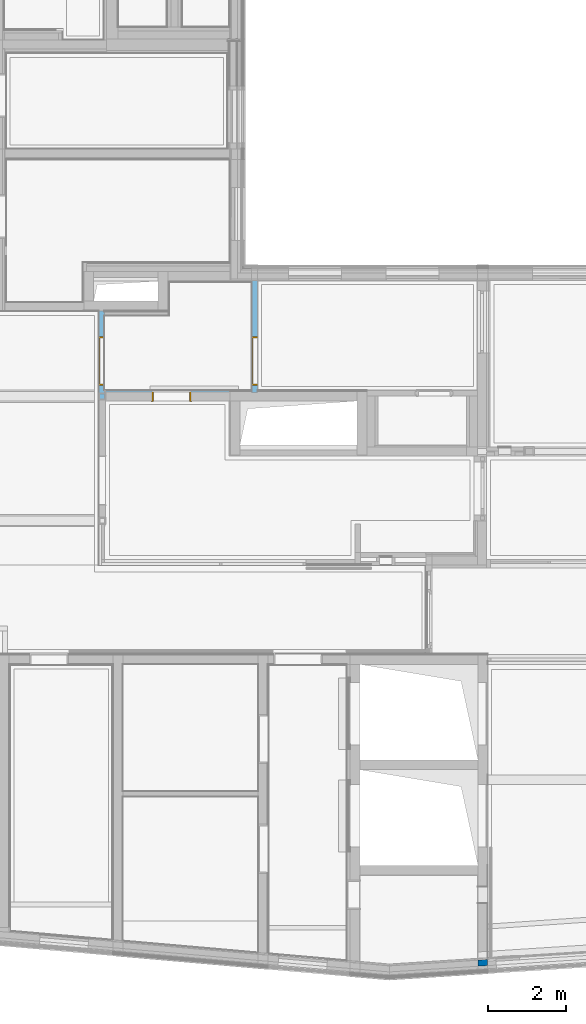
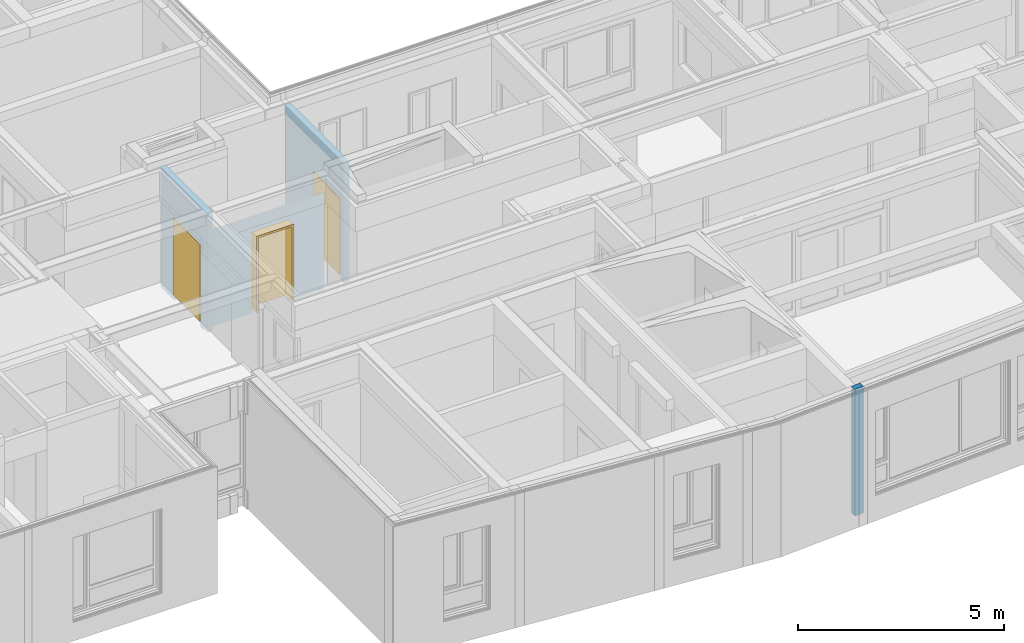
# One storey, part 83 of 222: 3 doors, 1 wall, 3 openings, plus 3 elements that do not belong to this part.
"""IFC4 building model written with IfcOpenShell, lengths in metres."""

import ifcopenshell
import ifcopenshell.guid

model = None  # the IFC model being written
_history = None  # IfcOwnerHistory: only IFC2X3 demands one
_inside = {}  # id of a spatial element -> (the spatial element, [elements in it])
_under = {}  # id of a project, library or spatial element -> (it, [spatial elements below it])
_declared = {}  # id of a project -> (the project, [libraries it declares])
_typed = {}  # id of a type object -> (the type object, [elements of that type])
_made_of = {}  # id of a material, layer set ... -> (it, [elements and type objects made of it])


def new_model(schema):
    """Start an empty IFC model of exactly this schema.

    Asked for "IFC4X3", IfcOpenShell would pick the latest addendum, in which some entities
    have other attributes; the version numbers below select the first issue.
    IFC2X3 requires an IfcOwnerHistory on every rooted entity: one is made here for all.
    """
    global model, _history
    if schema == "IFC4X3":
        model = ifcopenshell.file(schema_version=(4, 3, 0, 0))
    else:
        model = ifcopenshell.file(schema=schema)
    _inside.clear()
    _under.clear()
    _declared.clear()
    _typed.clear()
    _made_of.clear()
    _history = None
    if model.schema == "IFC2X3":
        org = make("IfcOrganization", Name="unknown")
        user = make(
            "IfcPersonAndOrganization",
            ThePerson=make("IfcPerson", FamilyName="unknown"),
            TheOrganization=org,
        )
        app = make(
            "IfcApplication",
            ApplicationDeveloper=org,
            Version="unknown",
            ApplicationFullName="unknown",
            ApplicationIdentifier="unknown",
        )
        _history = make(
            "IfcOwnerHistory",
            OwningUser=user,
            OwningApplication=app,
            ChangeAction="ADDED",
            CreationDate=0,
        )
    return model


def make(cls, **values):
    """One entity of the class cls with the attributes given. An attribute that is None is left unset."""
    return model.create_entity(
        cls, **{name: value for name, value in values.items() if value is not None}
    )


def entity(cls, *values):
    """Any entity or typed value of the class cls, its attributes in the order of the schema. None: left unset."""
    e = model.create_entity(cls)
    for i, value in enumerate(values):
        if value is not None:
            e[i] = value
    return e


def rooted(cls, **values):
    """An entity with a GlobalId (a new one), such as an element, a storey or a relation."""
    return make(cls, GlobalId=ifcopenshell.guid.new(), OwnerHistory=_history, **values)


def si_unit(unit_type, name, prefix=None):
    """IfcSIUnit, for example si_unit("LENGTHUNIT", "METRE", prefix="MILLI")."""
    return make("IfcSIUnit", UnitType=unit_type, Prefix=prefix, Name=name)


def converted_unit(unit_type, name, factor, base, dimensions=None, offset=None):
    """IfcConversionBasedUnit, such as the inch: factor (a typed value) times the base unit."""
    return make(
        "IfcConversionBasedUnit"
        if offset is None
        else "IfcConversionBasedUnitWithOffset",
        ConversionOffset=offset,
        Dimensions=None
        if dimensions is None
        else entity("IfcDimensionalExponents", *dimensions),
        UnitType=unit_type,
        Name=name,
        ConversionFactor=make(
            "IfcMeasureWithUnit", ValueComponent=factor, UnitComponent=base
        ),
    )


def derived_unit(unit_type, elements):
    """IfcDerivedUnit: a product of units, each with its exponent."""
    return make(
        "IfcDerivedUnit",
        Elements=[
            make("IfcDerivedUnitElement", Unit=unit, Exponent=power)
            for unit, power in elements
        ],
        UnitType=unit_type,
    )


def assignment(units):
    """IfcUnitAssignment: the units of a project."""
    return None if units is None else make("IfcUnitAssignment", Units=units)


def point(xyz):
    """IfcCartesianPoint."""
    return None if xyz is None else make("IfcCartesianPoint", Coordinates=xyz)


def direction(xyz):
    """IfcDirection."""
    return None if xyz is None else make("IfcDirection", DirectionRatios=xyz)


def frame(location, z_axis=None, x_axis=None):
    """IfcAxis2Placement3D, a coordinate frame: its origin and axes. An axis left out is left unset."""
    return make(
        "IfcAxis2Placement3D",
        Location=point(location),
        Axis=direction(z_axis),
        RefDirection=direction(x_axis),
    )


def frame_2d(location, x_axis=None):
    """IfcAxis2Placement2D, a coordinate frame in the plane: its origin and x axis."""
    return make(
        "IfcAxis2Placement2D", Location=point(location), RefDirection=direction(x_axis)
    )


def origin():
    """The frame at (0, 0, 0) with its axes left unset."""
    return frame((0.0, 0.0, 0.0))


def origin_with_axes():
    """The frame at (0, 0, 0) with the z axis (0, 0, 1) and the x axis (1, 0, 0) written out."""
    return frame((0.0, 0.0, 0.0), z_axis=(0.0, 0.0, 1.0), x_axis=(1.0, 0.0, 0.0))


def place(relative_to, where):
    """IfcLocalPlacement: puts the frame where relative to a parent placement (None: the world)."""
    return make(
        "IfcLocalPlacement", PlacementRelTo=relative_to, RelativePlacement=where
    )


def context(
    kind, dimensions, precision=None, world=None, true_north=None, identifier=None
):
    """IfcGeometricRepresentationContext, for example the 3D "Model" context."""
    return make(
        "IfcGeometricRepresentationContext",
        ContextIdentifier=identifier,
        ContextType=kind,
        CoordinateSpaceDimension=dimensions,
        Precision=precision,
        WorldCoordinateSystem=world,
        TrueNorth=true_north,
    )


def subcontext(parent, identifier, kind, view, scale=None):
    """IfcGeometricRepresentationSubContext, for example "Body" below "Model"."""
    return make(
        "IfcGeometricRepresentationSubContext",
        ContextIdentifier=identifier,
        ContextType=kind,
        ParentContext=parent,
        TargetScale=scale,
        TargetView=view,
    )


def project(units=None, contexts=None):
    """IfcProject with its units and contexts."""
    return rooted(
        "IfcProject",
        Name="project",
        RepresentationContexts=contexts,
        UnitsInContext=assignment(units),
    )


def spatial(cls, under=None, at=None, **own):
    """A site, building, storey or space (cls), placed at a placement, below another one or the project."""
    s = rooted(cls, ObjectPlacement=at, **own)
    if under is not None:
        _under.setdefault(under.id(), (under, []))[1].append(s)
    return s


def polyline(points):
    """IfcPolyline through the points."""
    return make("IfcPolyline", Points=[point(p) for p in points])


def profile(cls, at=None, kind="AREA", **sizes):
    """A parametric profile (cls). Its sizes go by their IFC names, for example OverallWidth=200.0."""
    return make(cls, ProfileType=kind, Position=at, **sizes)


def rectangle(**sizes):
    """IfcRectangleProfileDef."""
    return profile("IfcRectangleProfileDef", **sizes)


def outline(outer, holes=None, kind="AREA"):
    """IfcArbitraryClosedProfileDef: a profile drawn as a closed curve; with holes, ...WithVoids."""
    if holes is None:
        return make("IfcArbitraryClosedProfileDef", ProfileType=kind, OuterCurve=outer)
    return make(
        "IfcArbitraryProfileDefWithVoids",
        ProfileType=kind,
        OuterCurve=outer,
        InnerCurves=holes,
    )


def extrude(swept, where, along, depth):
    """IfcExtrudedAreaSolid: the profile swept, set in the frame where, extruded along a direction by depth."""
    return make(
        "IfcExtrudedAreaSolid",
        SweptArea=swept,
        Position=where,
        ExtrudedDirection=direction(along),
        Depth=depth,
    )


def clip(a, b, op="DIFFERENCE"):
    """IfcBooleanClippingResult: the solid a cut by the half space b."""
    return make(
        "IfcBooleanClippingResult", Operator=op, FirstOperand=a, SecondOperand=b
    )


def bounded_halfspace(plane, agree, where, boundary):
    """IfcPolygonalBoundedHalfSpace: a half space limited to a polygon's prism."""
    return make(
        "IfcPolygonalBoundedHalfSpace",
        BaseSurface=make("IfcPlane", Position=plane),
        AgreementFlag=agree,
        Position=where,
        PolygonalBoundary=boundary,
    )


def faces_of(points, faces, orient=None, outer=None):
    """IfcFace entities. A face is a list of loops; a loop is a list of indices into points, from 0.

    orient and outer hold one flag for each loop. By default every Orientation is true, the
    first loop of a face is its IfcFaceOuterBound and the others are IfcFaceBound.
    """
    made = []
    for i, loops in enumerate(faces):
        bounds = []
        for j, loop in enumerate(loops):
            is_outer = j == 0 if outer is None else outer[i][j]
            bounds.append(
                make(
                    "IfcFaceOuterBound" if is_outer else "IfcFaceBound",
                    Bound=make("IfcPolyLoop", Polygon=[points[k] for k in loop]),
                    Orientation=True if orient is None else orient[i][j],
                )
            )
        made.append(make("IfcFace", Bounds=bounds))
    return made


def faceted_brep(points, faces, orient=None, outer=None, voids=None):
    """IfcFacetedBrep: a solid bounded by flat faces; with voids (closed shells), ...WithVoids."""
    shared = [point(p) for p in points]
    hull = make("IfcClosedShell", CfsFaces=faces_of(shared, faces, orient, outer))
    if voids is None:
        return make("IfcFacetedBrep", Outer=hull)
    return make(
        "IfcFacetedBrepWithVoids",
        Outer=hull,
        Voids=[
            make(cls, CfsFaces=faces_of(shared, fs, o, b)) for cls, fs, o, b in voids
        ],
    )


def shape(context_of_items, identifier, shape_type, items):
    """IfcShapeRepresentation: the items that make up one representation, for example the "Body"."""
    return make(
        "IfcShapeRepresentation",
        ContextOfItems=context_of_items,
        RepresentationIdentifier=identifier,
        RepresentationType=shape_type,
        Items=items,
    )


def source(mapping_origin, context_of_items, identifier, shape_type, items):
    """IfcRepresentationMap: a shape defined once, which mapped items show again and again."""
    return make(
        "IfcRepresentationMap",
        MappingOrigin=mapping_origin,
        MappedRepresentation=shape(context_of_items, identifier, shape_type, items),
    )


def transform(
    local_origin,
    x_axis=None,
    y_axis=None,
    z_axis=None,
    scale=None,
    scale2=None,
    scale3=None,
    uniform=True,
):
    """IfcCartesianTransformationOperator3D, or its non-uniform kind. x_axis, y_axis, z_axis: its Axis1, 2, 3."""
    if uniform:
        return make(
            "IfcCartesianTransformationOperator3D",
            Axis1=direction(x_axis),
            Axis2=direction(y_axis),
            LocalOrigin=point(local_origin),
            Scale=scale,
            Axis3=direction(z_axis),
        )
    return make(
        "IfcCartesianTransformationOperator3DnonUniform",
        Axis1=direction(x_axis),
        Axis2=direction(y_axis),
        LocalOrigin=point(local_origin),
        Scale=scale,
        Axis3=direction(z_axis),
        Scale2=scale2,
        Scale3=scale3,
    )


def mapped(mapping_source, mapping_target):
    """IfcMappedItem: shows the shape of a source again, moved by a transform."""
    return make(
        "IfcMappedItem", MappingSource=mapping_source, MappingTarget=mapping_target
    )


def material(Name=None, Category=None):
    """IfcMaterial."""
    return make("IfcMaterial", Name=Name, Category=Category)


def made_of(thing, what):
    """Note that an element or type object is made of a material, layer set ...; save() writes the relation."""
    if what is not None:
        _made_of.setdefault(what.id(), (what, []))[1].append(thing)
    return thing


def type_object(cls, material=None, **own):
    """A type object (cls), such as IfcWallType, which elements share."""
    return made_of(rooted(cls, **own), material)


def element(
    cls,
    number,
    at=None,
    inside=None,
    cuts=None,
    type_object=None,
    material=None,
    context=None,
    identifier="Body",
    shape_type=None,
    held_by="IfcProductDefinitionShape",
    body=None,
    shapes=None,
    **own,
):
    """One element of the class cls, such as IfcWall. Its Tag is "e" and its number.

    at: its placement. inside: the storey or other place that contains it. cuts: it is an
    opening in that element (IfcRelVoidsElement). A single representation is given by context,
    identifier, shape_type and body (its items); several are given by shapes. held_by: the class
    of the entity that holds the representations. save() writes the other relations.
    """
    e = rooted(cls, Tag="e%d" % number, ObjectPlacement=at, **own)
    if body is not None:
        shapes = [shape(context, identifier, shape_type, body)]
    if shapes is not None:
        e.Representation = make(held_by, Representations=shapes)
    if inside is not None:
        _inside.setdefault(inside.id(), (inside, []))[1].append(e)
    if cuts is not None:
        rooted(
            "IfcRelVoidsElement", RelatingBuildingElement=cuts, RelatedOpeningElement=e
        )
    if type_object is not None:
        _typed.setdefault(type_object.id(), (type_object, []))[1].append(e)
    return made_of(e, material)


def fill(opening, filler):
    """IfcRelFillsElement: the door or window that sits in an opening."""
    return rooted(
        "IfcRelFillsElement",
        RelatingOpeningElement=opening,
        RelatedBuildingElement=filler,
    )


def aggregate(whole, parts):
    """IfcRelAggregates: a whole, such as a stair, and the parts it consists of."""
    return rooted("IfcRelAggregates", RelatingObject=whole, RelatedObjects=parts)


def save(model, path):
    """Write the relations noted so far, then the file.

    IfcRelAggregates (storeys below a building ...), IfcRelContainedInSpatialStructure (elements
    in a storey), IfcRelDefinesByType, IfcRelAssociatesMaterial and IfcRelDeclares: one each for
    every whole, place, type object, material and project.
    """
    for whole, parts in _under.values():
        aggregate(whole, parts)
    for where, things in _inside.values():
        rooted(
            "IfcRelContainedInSpatialStructure",
            RelatedElements=things,
            RelatingStructure=where,
        )
    for kind, things in _typed.values():
        rooted("IfcRelDefinesByType", RelatedObjects=things, RelatingType=kind)
    for what, things in _made_of.values():
        rooted("IfcRelAssociatesMaterial", RelatedObjects=things, RelatingMaterial=what)
    for by, libraries in _declared.values():
        rooted("IfcRelDeclares", RelatingContext=by, RelatedDefinitions=libraries)
    model.write(path)


model = new_model("IFC4")

# Units and contexts
model_context = context("Model", 3, precision=1e-05, world=origin())
body_context = subcontext(model_context, "Body", "Model", "MODEL_VIEW")
ifc_project = project(units=[si_unit("LENGTHUNIT", "METRE"), si_unit("AREAUNIT", "SQUARE_METRE"), si_unit("VOLUMEUNIT", "CUBIC_METRE"), si_unit("MASSUNIT", "GRAM", prefix="KILO"), converted_unit("PLANEANGLEUNIT", "DEGREE", entity("IfcPlaneAngleMeasure", 0.0174532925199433), si_unit("PLANEANGLEUNIT", "RADIAN"), dimensions=[0, 0, 0, 0, 0, 0, 0]), derived_unit("THERMALTRANSMITTANCEUNIT", [(si_unit("POWERUNIT", "WATT"), 1), (si_unit("THERMODYNAMICTEMPERATUREUNIT", "KELVIN"), -1), (si_unit("LENGTHUNIT", "METRE"), -2)]), derived_unit("VOLUMETRICFLOWRATEUNIT", [(si_unit("LENGTHUNIT", "METRE"), 3), (converted_unit("TIMEUNIT", "hour", entity("IfcTimeMeasure", 3600.0), si_unit("TIMEUNIT", "SECOND"), dimensions=[0, 0, 1, 0, 0, 0, 0]), -1), (si_unit("LENGTHUNIT", "METRE"), -1)])], contexts=[model_context])

# Site, building, storey
site_placement = place(None, origin())
site = spatial("IfcSite", under=ifc_project, at=site_placement, Name="Psychiatrie Neubau Wunstorf", CompositionType="ELEMENT")
building_placement = place(site_placement, origin())
building = spatial("IfcBuilding", under=site, at=building_placement, Name="Neubau H2 Stationsgebäude", CompositionType="ELEMENT")
storey_placement = place(building_placement, frame((0.0, 0.0, 3.6)))
storey = spatial("IfcBuildingStorey", under=building, at=storey_placement, Name="H2 Ebene +1", CompositionType="ELEMENT", Elevation=3.6)

# Wall
ifc_material_1 = material(Name="WA-HD")
wall_1_placement = place(storey_placement, frame((50.3000000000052, -7.46352629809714, 0.0)))
element("IfcWall", 1, at=wall_1_placement, inside=storey, material=ifc_material_1, Name="Holzständer + Zwischendämmung", context=body_context, shape_type="Brep", body=[
    faceted_brep([(0.0138183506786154, 0.116124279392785, 3.55), (0.0138183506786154, 0.116124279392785, 3.25), (0.25, 0.13129149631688, 3.25), (0.25, 0.13129149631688, 3.55), (0.25, 0.176384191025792, 3.55), (0.010934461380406, 0.161031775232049, 3.55), (0.010934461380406, 0.161031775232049, 3.25), (0.25, 0.176384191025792, 3.25), (0.25, 0.0160546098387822, 0.0), (0.0, 0.0, 0.0), (0.0, 0.0, 3.75), (0.25, 0.0160546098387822, 3.75), (0.0, 0.16032958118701, 0.0), (0.0, 0.16032958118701, 3.75), (0.25, 0.176384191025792, 3.75), (0.25, 0.176384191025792, 0.0)], [[[0, 1, 2, 3]], [[0, 3, 4, 5]], [[5, 6, 1, 0]], [[6, 7, 2, 1]], [[8, 9, 10, 11]], [[9, 12, 13, 10]], [[4, 14, 13, 12, 15, 7, 6, 5]], [[3, 2, 7, 15, 8, 11, 14, 4]], [[14, 11, 10, 13]], [[8, 15, 12, 9]]], orient=[[False], [False], [False], [False], [False], [False], [False], [False], [False], [False]]),
])

# Wall, opening, door
ifc_material_2 = material(Name="WI-LB")
wall_2_placement = place(storey_placement, frame((43.9500000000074, 7.29999969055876, 0.0), z_axis=(0.0, 0.0, 1.0), x_axis=(-1.0, 0.0, 0.0)))
wall_2 = element("IfcWall", 2, at=wall_2_placement, inside=storey, material=ifc_material_2, context=body_context, shape_type="SweptSolid", body=[
    extrude(rectangle(XDim=3.19500244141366, YDim=0.04, at=frame_2d((1.59750122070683, 0.02), x_axis=(1.0, 0.0))), origin_with_axes(), (0.0, 0.0, 1.0), 2.85),
])
opening_1_placement = place(wall_2_placement, frame((0.999999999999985, 0.0, 0.0), z_axis=(0.0, 1.0, 0.0), x_axis=(0.0, 0.0, 1.0)))
opening_1 = element("IfcOpeningElement", 3, at=opening_1_placement, cuts=wall_2, Name="Türöffnung", ObjectType="Opening", context=body_context, shape_type="SweptSolid", body=[
    extrude(outline(polyline([(2.41, 1.01), (2.41, 0.0), (0.0, 0.0), (0.0, 1.01), (2.41, 1.01)])), origin_with_axes(), (0.0, 0.0, 1.0), 0.04),
])
ifc_material_3 = material(Name="TI-1F-UZ-ZK")
door_type_1 = type_object("IfcDoorType", Name="SMT", OperationType="SLIDING_TO_RIGHT", ParameterTakesPrecedence=False, PredefinedType="DOOR")
shared_shape_1 = source(origin_with_axes(), body_context, "Body", "Brep", [
    faceted_brep([(1.01, -0.015, 2.41), (1.01, -0.015, 0.15), (0.97, -0.015, 0.15), (0.97, -0.015, 2.41), (1.01, 0.287, 0.15), (1.01, 0.287, 2.41), (0.97, 0.287, 2.41), (0.97, 0.287, 0.15)], [[[0, 1, 2, 3]], [[4, 5, 6, 7]], [[1, 0, 5, 4]], [[2, 1, 4, 7]], [[3, 2, 7, 6]], [[0, 3, 6, 5]]], orient=[[False], [False], [False], [False], [False], [False]]),
    faceted_brep([(1.01, -0.015, 2.425), (1.025, -0.015, 2.425), (1.025, -0.015, 0.15), (1.01, -0.015, 0.15), (1.01, 0.0, 0.15), (1.025, 0.0, 0.15), (1.025, 0.0, 2.425), (1.01, 0.0, 2.425)], [[[0, 1, 2, 3]], [[4, 5, 6, 7]], [[3, 4, 7, 0]], [[2, 5, 4, 3]], [[1, 6, 5, 2]], [[0, 7, 6, 1]]], orient=[[False], [False], [False], [False], [False], [False]]),
    faceted_brep([(1.01, 0.272, 2.425), (1.025, 0.272, 2.425), (1.025, 0.272, 0.15), (1.01, 0.272, 0.15), (1.01, 0.287, 0.15), (1.025, 0.287, 0.15), (1.025, 0.287, 2.425), (1.01, 0.287, 2.425)], [[[0, 1, 2, 3]], [[4, 5, 6, 7]], [[3, 4, 7, 0]], [[2, 5, 4, 3]], [[1, 6, 5, 2]], [[0, 7, 6, 1]]], orient=[[False], [False], [False], [False], [False], [False]]),
    faceted_brep([(0.04, -0.015, 2.41), (0.04, -0.015, 0.15), (0.0, -0.015, 0.15), (0.0, -0.015, 2.41), (0.04, 0.287, 0.15), (0.04, 0.287, 2.41), (0.0, 0.287, 2.41), (0.0, 0.287, 0.15)], [[[0, 1, 2, 3]], [[4, 5, 6, 7]], [[1, 0, 5, 4]], [[2, 1, 4, 7]], [[3, 2, 7, 6]], [[0, 3, 6, 5]]], orient=[[False], [False], [False], [False], [False], [False]]),
    faceted_brep([(0.0, -0.015, 2.425), (0.0, -0.015, 0.15), (-0.015, -0.015, 0.15), (-0.015, -0.015, 2.425), (0.0, 0.0, 0.15), (0.0, 0.0, 2.425), (-0.015, 0.0, 2.425), (-0.015, 0.0, 0.15)], [[[0, 1, 2, 3]], [[4, 5, 6, 7]], [[1, 0, 5, 4]], [[2, 1, 4, 7]], [[3, 2, 7, 6]], [[0, 3, 6, 5]]], orient=[[False], [False], [False], [False], [False], [False]]),
    faceted_brep([(0.0, 0.272, 2.425), (0.0, 0.272, 0.15), (-0.015, 0.272, 0.15), (-0.015, 0.272, 2.425), (0.0, 0.287, 0.15), (0.0, 0.287, 2.425), (-0.015, 0.287, 2.425), (-0.015, 0.287, 0.15)], [[[0, 1, 2, 3]], [[4, 5, 6, 7]], [[1, 0, 5, 4]], [[2, 1, 4, 7]], [[3, 2, 7, 6]], [[0, 3, 6, 5]]], orient=[[False], [False], [False], [False], [False], [False]]),
    faceted_brep([(0.97, -0.015, 2.41), (0.97, -0.015, 2.37), (0.04, -0.015, 2.37), (0.04, -0.015, 2.41), (0.97, 0.287, 2.37), (0.97, 0.287, 2.41), (0.04, 0.287, 2.41), (0.04, 0.287, 2.37)], [[[0, 1, 2, 3]], [[4, 5, 6, 7]], [[1, 0, 5, 4]], [[2, 1, 4, 7]], [[3, 2, 7, 6]], [[0, 3, 6, 5]]], orient=[[False], [False], [False], [False], [False], [False]]),
    faceted_brep([(1.01, -0.015, 2.425), (1.01, -0.015, 2.41), (0.0, -0.015, 2.41), (0.0, -0.015, 2.425), (1.01, 0.0, 2.41), (1.01, 0.0, 2.425), (0.0, 0.0, 2.425), (0.0, 0.0, 2.41)], [[[0, 1, 2, 3]], [[4, 5, 6, 7]], [[1, 0, 5, 4]], [[2, 1, 4, 7]], [[3, 2, 7, 6]], [[0, 3, 6, 5]]], orient=[[False], [False], [False], [False], [False], [False]]),
    faceted_brep([(1.01, 0.272, 2.425), (1.01, 0.272, 2.41), (0.0, 0.272, 2.41), (0.0, 0.272, 2.425), (1.01, 0.287, 2.41), (1.01, 0.287, 2.425), (0.0, 0.287, 2.425), (0.0, 0.287, 2.41)], [[[0, 1, 2, 3]], [[4, 5, 6, 7]], [[1, 0, 5, 4]], [[2, 1, 4, 7]], [[3, 2, 7, 6]], [[0, 3, 6, 5]]], orient=[[False], [False], [False], [False], [False], [False]]),
    faceted_brep([(0.985, -0.085, 2.385), (0.985, -0.085, 0.15), (0.025, -0.085, 0.15), (0.025, -0.085, 2.385), (0.985, -0.035, 0.15), (0.985, -0.035, 2.385), (0.025, -0.035, 2.385), (0.025, -0.035, 0.15)], [[[0, 1, 2, 3]], [[4, 5, 6, 7]], [[1, 0, 5, 4]], [[2, 1, 4, 7]], [[3, 2, 7, 6]], [[0, 3, 6, 5]]], orient=[[False], [False], [False], [False], [False], [False]]),
])
door_1_placement = place(opening_1_placement, frame((0.0, 0.0, 0.0), z_axis=(1.0, 0.0, 0.0), x_axis=(0.0, 1.0, 0.0)))
door_1 = element("IfcDoor", 4, at=door_1_placement, inside=storey, type_object=door_type_1, material=ifc_material_3, Name="SMT", OverallHeight=2.41, OverallWidth=1.01, context=body_context, shape_type="MappedRepresentation", body=[
    mapped(shared_shape_1, transform((0.0, 0.0, 0.0), x_axis=(1.0, 0.0, 0.0), y_axis=(0.0, 1.0, 0.0), z_axis=(0.0, 0.0, 1.0), scale=1.0)),
])
fill(opening_1, door_1)

ifc_material_4 = material(Name="WI-LB")
wall_3_placement = place(storey_placement, frame((44.65, 7.24499969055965, 0.0), z_axis=(0.0, 0.0, 1.0), x_axis=(0.0, 1.0, 0.0)))
wall_3 = element("IfcWall", 5, at=wall_3_placement, inside=storey, material=ifc_material_4, context=body_context, shape_type="SweptSolid", body=[
    extrude(rectangle(XDim=2.86900155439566, YDim=0.15, at=frame_2d((1.43450077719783, 0.075), x_axis=(1.0, 0.0))), origin_with_axes(), (0.0, 0.0, 1.0), 3.55),
])
opening_2_placement = place(wall_3_placement, frame((0.18, 0.0, 0.0), z_axis=(0.0, 1.0, 0.0), x_axis=(0.0, 0.0, 1.0)))
opening_2 = element("IfcOpeningElement", 6, at=opening_2_placement, cuts=wall_3, Name="Türöffnung", ObjectType="Opening", context=body_context, shape_type="SweptSolid", body=[
    extrude(outline(polyline([(2.41, 1.26), (2.41, 0.0), (0.0, 0.0), (0.0, 1.26), (2.41, 1.26)])), origin_with_axes(), (0.0, 0.0, 1.0), 0.15),
])
ifc_material_5 = material(Name="TI-1F-UZ-D")
door_type_2 = type_object("IfcDoorType", Name="SMT", OperationType="SINGLE_SWING_RIGHT", ParameterTakesPrecedence=False, PredefinedType="DOOR")
shared_shape_2 = source(origin_with_axes(), body_context, "Body", "Brep", [
    faceted_brep([(-0.125000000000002, 0.0250000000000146, 0.0), (-0.0250000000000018, 0.0250000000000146, 0.0), (-0.0250000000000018, 0.125000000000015, 0.0), (-0.125000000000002, 0.125000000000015, 0.0), (-0.125000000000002, 0.125000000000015, 3.55), (-0.0250000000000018, 0.125000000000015, 3.55), (-0.0250000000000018, 0.0250000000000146, 3.55), (-0.125000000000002, 0.0250000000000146, 3.55)], [[[0, 1, 2, 3]], [[4, 5, 6, 7]], [[3, 4, 7, 0]], [[2, 5, 4, 3]], [[1, 6, 5, 2]], [[0, 7, 6, 1]]], orient=[[False], [False], [False], [False], [False], [False]]),
    faceted_brep([(1.285, 0.0250000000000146, 0.0), (1.385, 0.0250000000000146, 0.0), (1.385, 0.125000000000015, 0.0), (1.285, 0.125000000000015, 0.0), (1.285, 0.125000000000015, 3.55), (1.385, 0.125000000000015, 3.55), (1.385, 0.0250000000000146, 3.55), (1.285, 0.0250000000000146, 3.55)], [[[0, 1, 2, 3]], [[4, 5, 6, 7]], [[3, 4, 7, 0]], [[2, 5, 4, 3]], [[1, 6, 5, 2]], [[0, 7, 6, 1]]], orient=[[False], [False], [False], [False], [False], [False]]),
    faceted_brep([(-0.0250000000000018, 0.0250000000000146, 2.435), (1.285, 0.0250000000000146, 2.435), (1.285, 0.125000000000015, 2.435), (-0.0250000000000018, 0.125000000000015, 2.435), (-0.0250000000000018, 0.125000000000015, 2.535), (1.285, 0.125000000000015, 2.535), (1.285, 0.0250000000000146, 2.535), (-0.0250000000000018, 0.0250000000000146, 2.535)], [[[0, 1, 2, 3]], [[4, 5, 6, 7]], [[3, 4, 7, 0]], [[2, 5, 4, 3]], [[1, 6, 5, 2]], [[0, 7, 6, 1]]], orient=[[False], [False], [False], [False], [False], [False]]),
])
shared_shape_3 = source(origin_with_axes(), body_context, "Body", "Brep", [
    faceted_brep([(0.0, -0.0149999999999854, 2.41), (0.0399999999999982, -0.0149999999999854, 2.41), (0.0399999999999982, -0.0149999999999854, 0.15), (0.0, -0.0149999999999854, 0.15), (0.0, 0.165000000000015, 0.15), (0.0399999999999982, 0.165000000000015, 0.15), (0.0399999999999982, 0.165000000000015, 2.41), (0.0, 0.165000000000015, 2.41)], [[[0, 1, 2, 3]], [[4, 5, 6, 7]], [[3, 4, 7, 0]], [[2, 5, 4, 3]], [[1, 6, 5, 2]], [[0, 7, 6, 1]]], orient=[[False], [False], [False], [False], [False], [False]]),
    faceted_brep([(0.0, -0.0149999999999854, 2.425), (0.0, -0.0149999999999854, 0.15), (-0.0150000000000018, -0.0149999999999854, 0.15), (-0.0150000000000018, -0.0149999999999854, 2.425), (0.0, 0.0, 0.15), (0.0, 0.0, 2.425), (-0.0150000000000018, 0.0, 2.425), (-0.0150000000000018, 0.0, 0.15)], [[[0, 1, 2, 3]], [[4, 5, 6, 7]], [[1, 0, 5, 4]], [[2, 1, 4, 7]], [[3, 2, 7, 6]], [[0, 3, 6, 5]]], orient=[[False], [False], [False], [False], [False], [False]]),
    faceted_brep([(0.0, 0.150000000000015, 2.425), (0.0, 0.150000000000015, 0.15), (-0.0150000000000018, 0.150000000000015, 0.15), (-0.0150000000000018, 0.150000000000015, 2.425), (0.0, 0.165000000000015, 0.15), (0.0, 0.165000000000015, 2.425), (-0.0150000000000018, 0.165000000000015, 2.425), (-0.0150000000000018, 0.165000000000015, 0.15)], [[[0, 1, 2, 3]], [[4, 5, 6, 7]], [[1, 0, 5, 4]], [[2, 1, 4, 7]], [[3, 2, 7, 6]], [[0, 3, 6, 5]]], orient=[[False], [False], [False], [False], [False], [False]]),
    faceted_brep([(1.22, -0.0149999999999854, 2.41), (1.26, -0.0149999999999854, 2.41), (1.26, -0.0149999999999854, 0.15), (1.22, -0.0149999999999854, 0.15), (1.22, 0.165000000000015, 0.15), (1.26, 0.165000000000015, 0.15), (1.26, 0.165000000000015, 2.41), (1.22, 0.165000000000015, 2.41)], [[[0, 1, 2, 3]], [[4, 5, 6, 7]], [[3, 4, 7, 0]], [[2, 5, 4, 3]], [[1, 6, 5, 2]], [[0, 7, 6, 1]]], orient=[[False], [False], [False], [False], [False], [False]]),
    faceted_brep([(1.26, -0.0149999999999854, 2.425), (1.275, -0.0149999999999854, 2.425), (1.275, -0.0149999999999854, 0.15), (1.26, -0.0149999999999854, 0.15), (1.26, 0.0, 0.15), (1.275, 0.0, 0.15), (1.275, 0.0, 2.425), (1.26, 0.0, 2.425)], [[[0, 1, 2, 3]], [[4, 5, 6, 7]], [[3, 4, 7, 0]], [[2, 5, 4, 3]], [[1, 6, 5, 2]], [[0, 7, 6, 1]]], orient=[[False], [False], [False], [False], [False], [False]]),
    faceted_brep([(1.26, 0.150000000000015, 2.425), (1.275, 0.150000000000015, 2.425), (1.275, 0.150000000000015, 0.15), (1.26, 0.150000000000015, 0.15), (1.26, 0.165000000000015, 0.15), (1.275, 0.165000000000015, 0.15), (1.275, 0.165000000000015, 2.425), (1.26, 0.165000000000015, 2.425)], [[[0, 1, 2, 3]], [[4, 5, 6, 7]], [[3, 4, 7, 0]], [[2, 5, 4, 3]], [[1, 6, 5, 2]], [[0, 7, 6, 1]]], orient=[[False], [False], [False], [False], [False], [False]]),
    faceted_brep([(0.0399999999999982, -0.0149999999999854, 2.41), (1.22, -0.0149999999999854, 2.41), (1.22, -0.0149999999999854, 2.37), (0.0399999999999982, -0.0149999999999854, 2.37), (0.0399999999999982, 0.165000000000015, 2.37), (1.22, 0.165000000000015, 2.37), (1.22, 0.165000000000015, 2.41), (0.0399999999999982, 0.165000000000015, 2.41)], [[[0, 1, 2, 3]], [[4, 5, 6, 7]], [[3, 4, 7, 0]], [[2, 5, 4, 3]], [[1, 6, 5, 2]], [[0, 7, 6, 1]]], orient=[[False], [False], [False], [False], [False], [False]]),
    faceted_brep([(0.0, -0.0149999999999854, 2.425), (1.26, -0.0149999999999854, 2.425), (1.26, -0.0149999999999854, 2.41), (0.0, -0.0149999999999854, 2.41), (0.0, 0.0, 2.41), (1.26, 0.0, 2.41), (1.26, 0.0, 2.425), (0.0, 0.0, 2.425)], [[[0, 1, 2, 3]], [[4, 5, 6, 7]], [[3, 4, 7, 0]], [[2, 5, 4, 3]], [[1, 6, 5, 2]], [[0, 7, 6, 1]]], orient=[[False], [False], [False], [False], [False], [False]]),
    faceted_brep([(0.0, 0.150000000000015, 2.425), (1.26, 0.150000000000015, 2.425), (1.26, 0.150000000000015, 2.41), (0.0, 0.150000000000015, 2.41), (0.0, 0.165000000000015, 2.41), (1.26, 0.165000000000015, 2.41), (1.26, 0.165000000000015, 2.425), (0.0, 0.165000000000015, 2.425)], [[[0, 1, 2, 3]], [[4, 5, 6, 7]], [[3, 4, 7, 0]], [[2, 5, 4, 3]], [[1, 6, 5, 2]], [[0, 7, 6, 1]]], orient=[[False], [False], [False], [False], [False], [False]]),
    faceted_brep([(0.0249999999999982, 0.116000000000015, 2.385), (1.235, 0.116000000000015, 2.385), (1.235, 0.116000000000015, 0.15), (0.0249999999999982, 0.116000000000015, 0.15), (0.0249999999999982, 0.166000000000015, 0.15), (1.235, 0.166000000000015, 0.15), (1.235, 0.166000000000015, 2.385), (0.0249999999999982, 0.166000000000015, 2.385)], [[[0, 1, 2, 3]], [[4, 5, 6, 7]], [[3, 4, 7, 0]], [[2, 5, 4, 3]], [[1, 6, 5, 2]], [[0, 7, 6, 1]]], orient=[[False], [False], [False], [False], [False], [False]]),
])
door_2_placement = place(opening_2_placement, frame((0.0, 0.0, 0.0), z_axis=(1.0, 0.0, 0.0), x_axis=(0.0, 1.0, 0.0)))
door_2 = element("IfcDoor", 7, at=door_2_placement, inside=storey, type_object=door_type_2, material=ifc_material_5, Name="SMT", OverallHeight=2.41, OverallWidth=1.26, context=body_context, shape_type="MappedRepresentation", body=[
    mapped(shared_shape_2, transform((0.0, 0.0, 0.0), x_axis=(1.0, 0.0, 0.0), y_axis=(0.0, 1.0, 0.0), z_axis=(0.0, 0.0, 1.0), scale=1.0)),
    mapped(shared_shape_3, transform((0.0, 0.0, 0.0), x_axis=(1.0, 0.0, 0.0), y_axis=(0.0, 1.0, 0.0), z_axis=(0.0, 0.0, 1.0), scale=1.0)),
])
fill(opening_2, door_2)

ifc_material_6 = material(Name="WI-LB")
wall_4_placement = place(storey_placement, frame((40.5749975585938, 9.33499624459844, 0.0), z_axis=(0.0, 0.0, 1.0), x_axis=(0.0, -1.0, 0.0)))
wall_4 = element("IfcWall", 8, at=wall_4_placement, inside=storey, material=ifc_material_6, context=body_context, shape_type="Clipping", body=[
    clip(extrude(rectangle(XDim=2.27849655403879, YDim=0.149999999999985, at=frame_2d((1.1392482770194, 0.0749999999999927), x_axis=(1.0, 0.0))), origin_with_axes(), (0.0, 0.0, 1.0), 3.55), bounded_halfspace(frame((2.18849655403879, 0.08125, 3.317), z_axis=(0.0, 0.0, 1.0), x_axis=(0.0, -1.0, 0.0)), True, origin_with_axes(), polyline([(2.09849655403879, 0.149999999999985), (2.09849655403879, 0.0), (2.27849655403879, 0.0), (2.27849655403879, 0.149999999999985), (2.2534965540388, 0.149999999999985), (2.2534965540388, 0.0250000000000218), (2.12349655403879, 0.0250000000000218), (2.12349655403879, 0.149999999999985), (2.09849655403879, 0.149999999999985)]))),
])
opening_3_placement = place(wall_4_placement, frame((1.90999655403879, 0.150000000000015, 0.0), z_axis=(0.0, -1.0, 0.0), x_axis=(0.0, 0.0, 1.0)))
opening_3 = element("IfcOpeningElement", 9, at=opening_3_placement, cuts=wall_4, Name="Türöffnung", ObjectType="Opening", context=body_context, shape_type="SweptSolid", body=[
    extrude(outline(polyline([(2.41, 1.26), (2.41, 0.0), (0.0, 0.0), (0.0, 1.26), (2.41, 1.26)])), origin_with_axes(), (0.0, 0.0, 1.0), 0.15),
])
ifc_material_7 = material(Name="TI-1F-UZ-ZK")
door_type_3 = type_object("IfcDoorType", Name="SMT", OperationType="SINGLE_SWING_RIGHT", ParameterTakesPrecedence=False, PredefinedType="DOOR")
shared_shape_4 = source(origin_with_axes(), body_context, "Body", "Brep", [
    faceted_brep([(1.31, 0.0250000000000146, 0.0), (1.31, 0.125000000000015, 0.0), (1.26, 0.125000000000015, 0.0), (1.26, 0.0250000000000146, 0.0), (1.31, 0.125000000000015, 3.55), (1.31, 0.0250000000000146, 3.55), (1.26, 0.0250000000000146, 3.55), (1.26, 0.125000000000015, 3.55)], [[[0, 1, 2, 3]], [[4, 5, 6, 7]], [[1, 0, 5, 4]], [[2, 1, 4, 7]], [[3, 2, 7, 6]], [[0, 3, 6, 5]]], orient=[[False], [False], [False], [False], [False], [False]]),
    faceted_brep([(0.0, 0.0250000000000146, 0.0), (0.0, 0.125000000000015, 0.0), (-0.0500000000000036, 0.125000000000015, 0.0), (-0.0500000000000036, 0.0250000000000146, 0.0), (0.0, 0.125000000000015, 3.55), (0.0, 0.0250000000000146, 3.55), (-0.0500000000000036, 0.0250000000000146, 3.55), (-0.0500000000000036, 0.125000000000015, 3.55)], [[[0, 1, 2, 3]], [[4, 5, 6, 7]], [[1, 0, 5, 4]], [[2, 1, 4, 7]], [[3, 2, 7, 6]], [[0, 3, 6, 5]]], orient=[[False], [False], [False], [False], [False], [False]]),
    faceted_brep([(1.26, 0.0250000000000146, 2.41), (1.26, 0.125000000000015, 2.41), (0.0, 0.125000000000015, 2.41), (0.0, 0.0250000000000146, 2.41), (1.26, 0.125000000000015, 2.46), (1.26, 0.0250000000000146, 2.46), (0.0, 0.0250000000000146, 2.46), (0.0, 0.125000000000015, 2.46)], [[[0, 1, 2, 3]], [[4, 5, 6, 7]], [[1, 0, 5, 4]], [[2, 1, 4, 7]], [[3, 2, 7, 6]], [[0, 3, 6, 5]]], orient=[[False], [False], [False], [False], [False], [False]]),
])
shared_shape_5 = source(origin_with_axes(), body_context, "Body", "Brep", [
    faceted_brep([(0.0, -0.0149999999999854, 2.41), (0.0399999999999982, -0.0149999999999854, 2.41), (0.0399999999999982, -0.0149999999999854, 0.15), (0.0, -0.0149999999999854, 0.15), (0.0, 0.165000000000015, 0.15), (0.0399999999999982, 0.165000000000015, 0.15), (0.0399999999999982, 0.165000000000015, 2.41), (0.0, 0.165000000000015, 2.41)], [[[0, 1, 2, 3]], [[4, 5, 6, 7]], [[3, 4, 7, 0]], [[2, 5, 4, 3]], [[1, 6, 5, 2]], [[0, 7, 6, 1]]], orient=[[False], [False], [False], [False], [False], [False]]),
    faceted_brep([(0.0, -0.0149999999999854, 2.425), (0.0, -0.0149999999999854, 0.15), (-0.0150000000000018, -0.0149999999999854, 0.15), (-0.0150000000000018, -0.0149999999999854, 2.425), (0.0, 0.0, 0.15), (0.0, 0.0, 2.425), (-0.0150000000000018, 0.0, 2.425), (-0.0150000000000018, 0.0, 0.15)], [[[0, 1, 2, 3]], [[4, 5, 6, 7]], [[1, 0, 5, 4]], [[2, 1, 4, 7]], [[3, 2, 7, 6]], [[0, 3, 6, 5]]], orient=[[False], [False], [False], [False], [False], [False]]),
    faceted_brep([(0.0, 0.150000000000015, 2.425), (0.0, 0.150000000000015, 0.15), (-0.0150000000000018, 0.150000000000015, 0.15), (-0.0150000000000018, 0.150000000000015, 2.425), (0.0, 0.165000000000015, 0.15), (0.0, 0.165000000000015, 2.425), (-0.0150000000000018, 0.165000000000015, 2.425), (-0.0150000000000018, 0.165000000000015, 0.15)], [[[0, 1, 2, 3]], [[4, 5, 6, 7]], [[1, 0, 5, 4]], [[2, 1, 4, 7]], [[3, 2, 7, 6]], [[0, 3, 6, 5]]], orient=[[False], [False], [False], [False], [False], [False]]),
    faceted_brep([(1.22, -0.0149999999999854, 2.41), (1.26, -0.0149999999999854, 2.41), (1.26, -0.0149999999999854, 0.15), (1.22, -0.0149999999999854, 0.15), (1.22, 0.165000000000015, 0.15), (1.26, 0.165000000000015, 0.15), (1.26, 0.165000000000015, 2.41), (1.22, 0.165000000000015, 2.41)], [[[0, 1, 2, 3]], [[4, 5, 6, 7]], [[3, 4, 7, 0]], [[2, 5, 4, 3]], [[1, 6, 5, 2]], [[0, 7, 6, 1]]], orient=[[False], [False], [False], [False], [False], [False]]),
    faceted_brep([(1.26, -0.0149999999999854, 2.425), (1.275, -0.0149999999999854, 2.425), (1.275, -0.0149999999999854, 0.15), (1.26, -0.0149999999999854, 0.15), (1.26, 0.0, 0.15), (1.275, 0.0, 0.15), (1.275, 0.0, 2.425), (1.26, 0.0, 2.425)], [[[0, 1, 2, 3]], [[4, 5, 6, 7]], [[3, 4, 7, 0]], [[2, 5, 4, 3]], [[1, 6, 5, 2]], [[0, 7, 6, 1]]], orient=[[False], [False], [False], [False], [False], [False]]),
    faceted_brep([(1.26, 0.150000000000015, 2.425), (1.275, 0.150000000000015, 2.425), (1.275, 0.150000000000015, 0.15), (1.26, 0.150000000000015, 0.15), (1.26, 0.165000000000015, 0.15), (1.275, 0.165000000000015, 0.15), (1.275, 0.165000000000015, 2.425), (1.26, 0.165000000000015, 2.425)], [[[0, 1, 2, 3]], [[4, 5, 6, 7]], [[3, 4, 7, 0]], [[2, 5, 4, 3]], [[1, 6, 5, 2]], [[0, 7, 6, 1]]], orient=[[False], [False], [False], [False], [False], [False]]),
    faceted_brep([(0.0399999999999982, -0.0149999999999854, 2.41), (1.22, -0.0149999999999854, 2.41), (1.22, -0.0149999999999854, 2.37), (0.0399999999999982, -0.0149999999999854, 2.37), (0.0399999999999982, 0.165000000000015, 2.37), (1.22, 0.165000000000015, 2.37), (1.22, 0.165000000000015, 2.41), (0.0399999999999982, 0.165000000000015, 2.41)], [[[0, 1, 2, 3]], [[4, 5, 6, 7]], [[3, 4, 7, 0]], [[2, 5, 4, 3]], [[1, 6, 5, 2]], [[0, 7, 6, 1]]], orient=[[False], [False], [False], [False], [False], [False]]),
    faceted_brep([(0.0, -0.0149999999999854, 2.425), (1.26, -0.0149999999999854, 2.425), (1.26, -0.0149999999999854, 2.41), (0.0, -0.0149999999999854, 2.41), (0.0, 0.0, 2.41), (1.26, 0.0, 2.41), (1.26, 0.0, 2.425), (0.0, 0.0, 2.425)], [[[0, 1, 2, 3]], [[4, 5, 6, 7]], [[3, 4, 7, 0]], [[2, 5, 4, 3]], [[1, 6, 5, 2]], [[0, 7, 6, 1]]], orient=[[False], [False], [False], [False], [False], [False]]),
    faceted_brep([(0.0, 0.150000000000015, 2.425), (1.26, 0.150000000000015, 2.425), (1.26, 0.150000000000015, 2.41), (0.0, 0.150000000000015, 2.41), (0.0, 0.165000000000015, 2.41), (1.26, 0.165000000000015, 2.41), (1.26, 0.165000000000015, 2.425), (0.0, 0.165000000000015, 2.425)], [[[0, 1, 2, 3]], [[4, 5, 6, 7]], [[3, 4, 7, 0]], [[2, 5, 4, 3]], [[1, 6, 5, 2]], [[0, 7, 6, 1]]], orient=[[False], [False], [False], [False], [False], [False]]),
    faceted_brep([(0.0249999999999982, 0.116000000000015, 2.385), (1.235, 0.116000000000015, 2.385), (1.235, 0.116000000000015, 0.15), (0.0249999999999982, 0.116000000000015, 0.15), (0.0249999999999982, 0.166000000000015, 0.15), (1.235, 0.166000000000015, 0.15), (1.235, 0.166000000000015, 2.385), (0.0249999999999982, 0.166000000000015, 2.385)], [[[0, 1, 2, 3]], [[4, 5, 6, 7]], [[3, 4, 7, 0]], [[2, 5, 4, 3]], [[1, 6, 5, 2]], [[0, 7, 6, 1]]], orient=[[False], [False], [False], [False], [False], [False]]),
])
door_3_placement = place(opening_3_placement, frame((0.0, 0.0, 0.0), z_axis=(1.0, 0.0, 0.0), x_axis=(0.0, 1.0, 0.0)))
door_3 = element("IfcDoor", 10, at=door_3_placement, inside=storey, type_object=door_type_3, material=ifc_material_7, Name="SMT", OverallHeight=2.41, OverallWidth=1.26, context=body_context, shape_type="MappedRepresentation", body=[
    mapped(shared_shape_4, transform((0.0, 0.0, 0.0), x_axis=(1.0, 0.0, 0.0), y_axis=(0.0, 1.0, 0.0), z_axis=(0.0, 0.0, 1.0), scale=1.0)),
    mapped(shared_shape_5, transform((0.0, 0.0, 0.0), x_axis=(1.0, 0.0, 0.0), y_axis=(0.0, 1.0, 0.0), z_axis=(0.0, 0.0, 1.0), scale=1.0)),
])
fill(opening_3, door_3)

save(model, "model.ifc")
